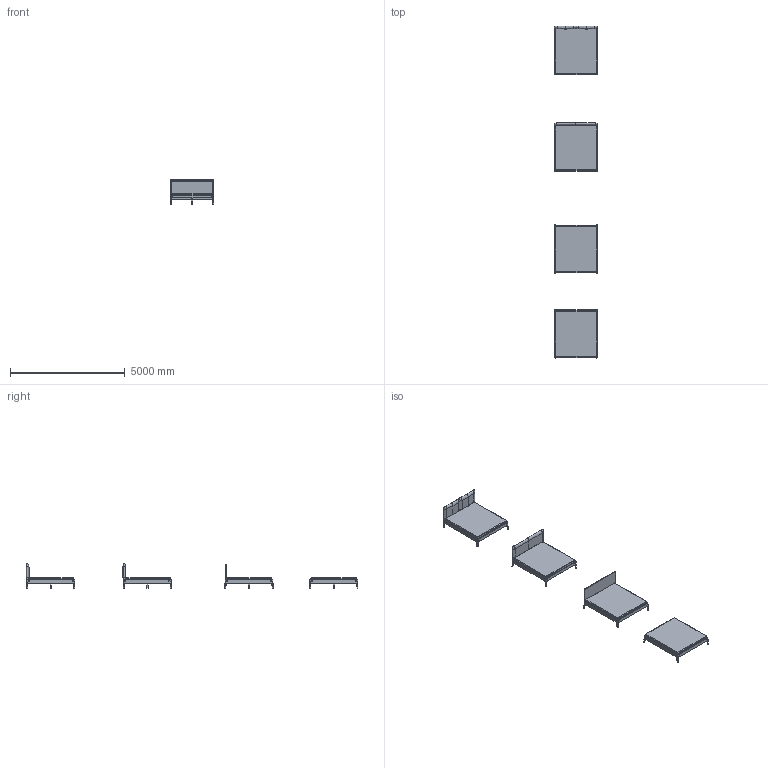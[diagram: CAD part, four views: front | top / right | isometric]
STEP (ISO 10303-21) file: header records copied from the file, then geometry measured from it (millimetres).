
FILE_DESCRIPTION(/* description */ (''),/* implementation_level */ '2;1');
FILE_NAME(/* name */ '180x200',/* time_stamp */ '2025-10-27T19:07:58+01:00',/* author */ (''),/* organization */ (''),/* preprocessor_version */ 'ST-DEVELOPER v16.5',/* originating_system */ 'Rhino 7.38',/* authorisation */ '');
FILE_SCHEMA (('CONFIG_CONTROL_DESIGN'));
Length unit declared in the file: millimetre
Products named in the file (1): Document
Bounding box: 1904.77 x 14475.35 x 1061.99 mm (x, y, z)
Volume: 3416917817.7 mm3; surface area: 57542516.2 mm2
Topology: 50 solids, 50 shells, 822 faces, 1836 edges, 1098 vertices
Faces by surface type: plane 441, bspline 280, cylinder 101
Entity records: 131758 total; most frequent: CARTESIAN_POINT 119092, ORIENTED_EDGE 3616, EDGE_CURVE 1808, B_SPLINE_CURVE_WITH_KNOTS 1594, VERTEX_POINT 1098, EDGE_LOOP 834, ADVANCED_FACE 822, FACE_OUTER_BOUND 822
